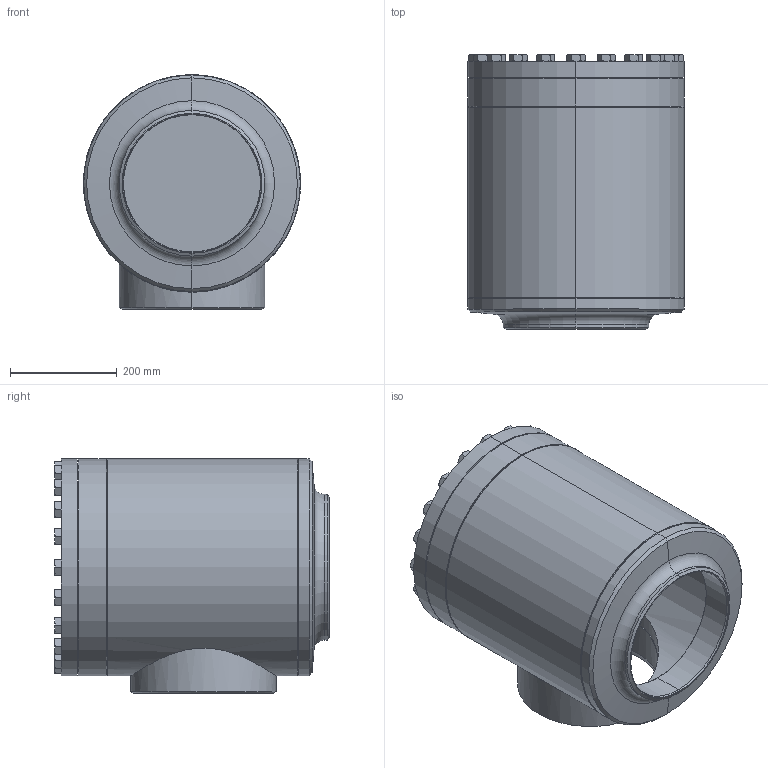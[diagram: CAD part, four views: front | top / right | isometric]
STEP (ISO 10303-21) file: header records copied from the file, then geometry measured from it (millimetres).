
FILE_DESCRIPTION (( 'STEP AP214' ), '1' );
FILE_NAME ('SS52400C24A5A0AA00-DN250_R1_PS25.STEP', '2010-06-16T12:39:09', ( 'Eckhard Grams' ), ( 'AWP Kälte Klima Armaturen GmbH' ), 'SwSTEP 2.0', 'SolidWorks 2002296', '' );
FILE_SCHEMA (( 'AUTOMOTIVE_DESIGN' ));
Length unit declared in the file: millimetre
Products named in the file (11): SS52400C24A5A0AA00-DN250_R1_PS25; Geh,kpl 26300B24-5030AA1_DN250_R1_Standard; Gehäuse26300-DN250_Standard; Kopfstück26300-DN250_Standard; Boden26300a-24_R1_Standard; Rohrstutzen-A26300a-24_R1_Standard; bead Geh,kpl 26300a-24-2_Standard; bead Geh,kpl 26300a-24-1_Standard; SS52300B24_Deck+Schr-DN250_Standard; Deckel52300B24-DN250_Standard; Sechskantschraube-DIN933_M20x 60
Assembly tree (29 placements, depth 3):
  SS52400C24A5A0AA00-DN250_R1_PS25
    SS52300B24_Deck+Schr-DN250_Standard
      Sechskantschraube-DIN933_M20x 60  x20
      Deckel52300B24-DN250_Standard
    Geh,kpl 26300B24-5030AA1_DN250_R1_Standard
      Boden26300a-24_R1_Standard
      Kopfstück26300-DN250_Standard
      bead Geh,kpl 26300a-24-2_Standard
      Rohrstutzen-A26300a-24_R1_Standard
      Gehäuse26300-DN250_Standard
      bead Geh,kpl 26300a-24-1_Standard
Bounding box: 406.71 x 514.5 x 439.34 mm (x, y, z)
Volume: 20398774.3 mm3; surface area: 2170714 mm2
Topology: 27 solids, 27 shells, 613 faces, 1314 edges, 776 vertices
Faces by surface type: cone 296, plane 198, cylinder 109, bspline 8, torus 2
Entity records: 6725 total; most frequent: CARTESIAN_POINT 2664, DIRECTION 758, ORIENTED_EDGE 652, AXIS2_PLACEMENT_3D 330, EDGE_CURVE 326, VERTEX_POINT 206, EDGE_LOOP 194, CIRCLE 166
